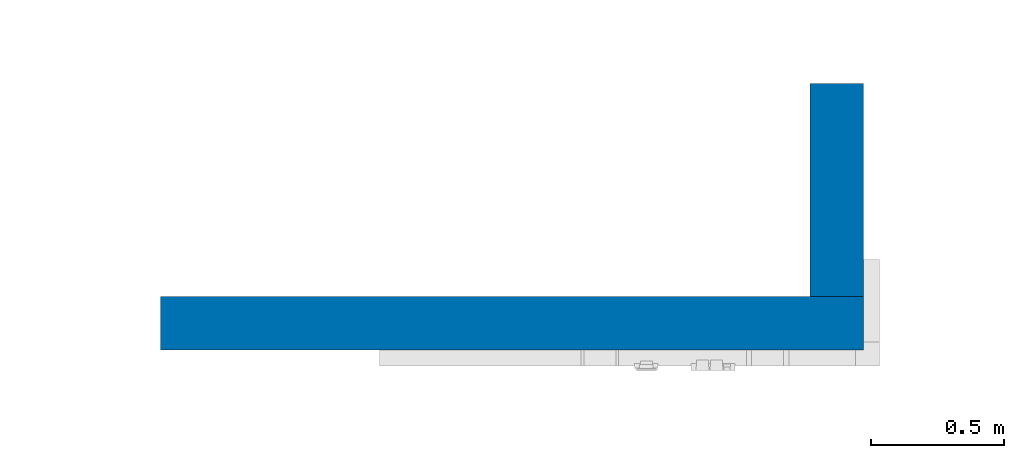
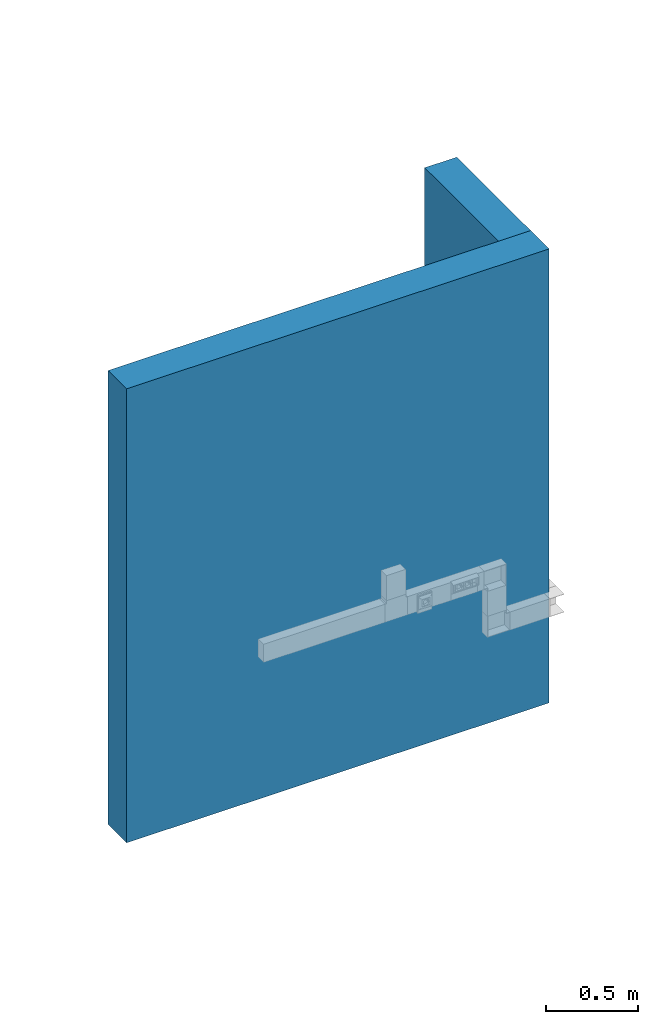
# One storey, part 1 of 71: 2 walls.
"""IFC2X3 building model written with IfcOpenShell, lengths in millimetres."""

from ifc_helpers import new_model, entity, si_unit, converted_unit, derived_unit, direction, frame, frame_2d, origin, place, context, subcontext, project, spatial, rectangle, extrude, material, layer, layer_set, layer_usage, type_object, element, save


model = new_model("IFC2X3")

# Units and contexts
model_context = context("Model", 3, precision=0.01, world=origin(), true_north=direction((6.12303176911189e-17, 1.0)))
body_context = subcontext(model_context, "Body", "Model", "MODEL_VIEW")
ifc_project = project(units=[si_unit("LENGTHUNIT", "METRE", prefix="MILLI"), si_unit("AREAUNIT", "SQUARE_METRE"), si_unit("VOLUMEUNIT", "CUBIC_METRE"), converted_unit("PLANEANGLEUNIT", "DEGREE", entity("IfcRatioMeasure", 0.0174532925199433), si_unit("PLANEANGLEUNIT", "RADIAN"), dimensions=[0, 0, 0, 0, 0, 0, 0]), si_unit("MASSUNIT", "GRAM", prefix="KILO"), derived_unit("MASSDENSITYUNIT", [(si_unit("MASSUNIT", "GRAM", prefix="KILO"), 1), (si_unit("LENGTHUNIT", "METRE"), -3)]), si_unit("TIMEUNIT", "SECOND"), si_unit("FREQUENCYUNIT", "HERTZ"), si_unit("THERMODYNAMICTEMPERATUREUNIT", "DEGREE_CELSIUS"), derived_unit("THERMALTRANSMITTANCEUNIT", [(si_unit("MASSUNIT", "GRAM", prefix="KILO"), 1), (si_unit("THERMODYNAMICTEMPERATUREUNIT", "KELVIN"), -1), (si_unit("TIMEUNIT", "SECOND"), -3)]), derived_unit("VOLUMETRICFLOWRATEUNIT", [(si_unit("LENGTHUNIT", "METRE"), 3), (si_unit("TIMEUNIT", "SECOND"), -1)]), si_unit("ELECTRICCURRENTUNIT", "AMPERE"), si_unit("ELECTRICVOLTAGEUNIT", "VOLT"), si_unit("POWERUNIT", "WATT"), si_unit("FORCEUNIT", "NEWTON", prefix="KILO"), si_unit("ILLUMINANCEUNIT", "LUX"), si_unit("LUMINOUSFLUXUNIT", "LUMEN"), si_unit("LUMINOUSINTENSITYUNIT", "CANDELA"), derived_unit("USERDEFINED", [(si_unit("MASSUNIT", "GRAM", prefix="KILO"), -1), (si_unit("LENGTHUNIT", "METRE"), -2), (si_unit("TIMEUNIT", "SECOND"), 3), (si_unit("LUMINOUSFLUXUNIT", "LUMEN"), 1)]), derived_unit("LINEARVELOCITYUNIT", [(si_unit("LENGTHUNIT", "METRE"), 1), (si_unit("TIMEUNIT", "SECOND"), -1)]), si_unit("PRESSUREUNIT", "PASCAL"), derived_unit("USERDEFINED", [(si_unit("LENGTHUNIT", "METRE"), -2), (si_unit("MASSUNIT", "GRAM", prefix="KILO"), 1), (si_unit("TIMEUNIT", "SECOND"), -2)])], contexts=[model_context])

# Site, building, storey
site_placement = place(None, origin())
site = spatial("IfcSite", under=ifc_project, at=site_placement, Name="Default", CompositionType="ELEMENT")
building_placement = place(site_placement, origin())
building = spatial("IfcBuilding", under=site, at=building_placement, Name="Наименование здания", CompositionType="ELEMENT")
storey_placement = place(building_placement, origin())
storey = spatial("IfcBuildingStorey", under=building, at=storey_placement, Name="Этаж 01", CompositionType="ELEMENT", Elevation=0.0)

# Walls
ifc_material = material(Name="<Unnamed>")
ifc_layer = layer(ifc_material, 200.0)
ifc_layer_set = layer_set([ifc_layer], Name="Базовая стена:Типовой - 200мм")
ifc_layer_usage_1 = layer_usage(ifc_layer_set, "AXIS2", "NEGATIVE", 100.0)
wall_type = type_object("IfcWallType", Name="Базовая стена:Типовой - 200мм", PredefinedType="STANDARD", material=ifc_layer_set)
wall_1_placement = place(storey_placement, frame((4974.76236313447, -3709.74530671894, 0.0)))
element("IfcWallStandardCase", 1, at=wall_1_placement, inside=storey, type_object=wall_type, material=ifc_layer_usage_1, Name="Базовая стена:Типовой - 200мм", ObjectType="Базовая стена:Типовой - 200мм", context=body_context, shape_type="SweptSolid", body=[
    extrude(rectangle(XDim=2640.0, YDim=200.0, at=frame_2d((1320.0, -2.06057393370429e-13), x_axis=(-1.0, 0.0))), origin(), (0.0, 0.0, 1.0), 3000.0),
])
ifc_layer_usage_2 = layer_usage(ifc_layer_set, "AXIS2", "NEGATIVE", 100.0)
wall_2_placement = place(storey_placement, frame((7514.76236313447, -3609.74530671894, 0.0), z_axis=(0.0, 0.0, 1.0), x_axis=(0.0, 1.0, 0.0)))
element("IfcWallStandardCase", 2, at=wall_2_placement, inside=storey, type_object=wall_type, material=ifc_layer_usage_2, Name="Базовая стена:Типовой - 200мм", ObjectType="Базовая стена:Типовой - 200мм", context=body_context, shape_type="SweptSolid", body=[
    extrude(rectangle(XDim=800.000000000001, YDim=200.0, at=frame_2d((400.0, -1.20792265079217e-13), x_axis=(-1.0, 0.0))), origin(), (0.0, 0.0, 1.0), 3000.0),
])

save(model, "model.ifc")
